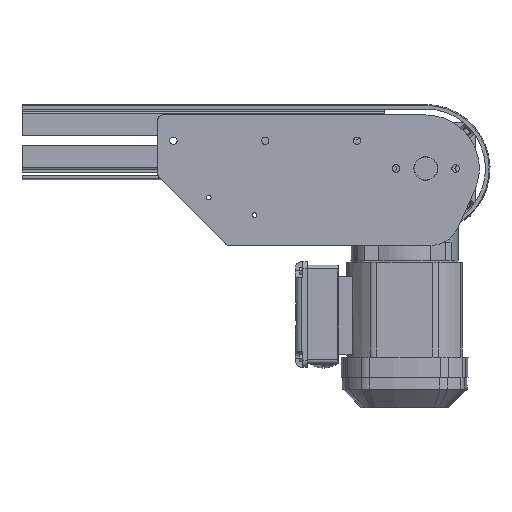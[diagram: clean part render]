
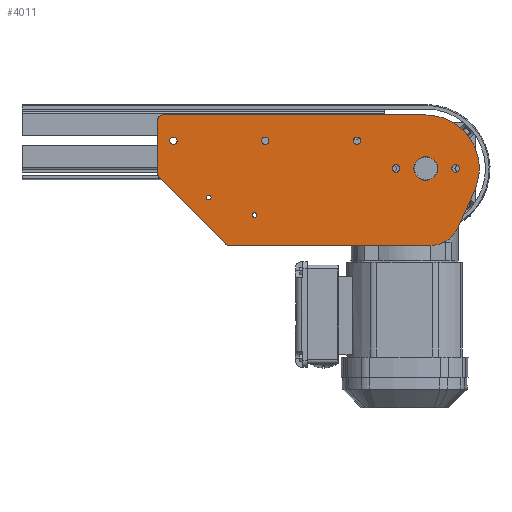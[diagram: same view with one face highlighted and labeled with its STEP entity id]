
A CAD part, left-side view. The second image highlights one B-rep face of the part: STEP entity #4011.
In plain terms, the highlighted planar face has unit normal (-1, 0, 0) as drawn and (0, 0, -1) by its records, which use the part's own axes.
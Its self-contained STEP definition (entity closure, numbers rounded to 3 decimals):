
#3442=CARTESIAN_POINT('',(105.169,123.965,0.0));
#3443=VERTEX_POINT('',#3442);
#3444=CARTESIAN_POINT('',(92.169,123.965,0.0));
#3445=DIRECTION('',(0.0,0.0,1.0));
#3446=DIRECTION('',(-1.0,0.0,0.0));
#3447=AXIS2_PLACEMENT_3D('',#3444,#3445,#3446);
#3448=CIRCLE('',#3447,13.0);
#3449=EDGE_CURVE('',#3443,#3443,#3448,.T.);
#3470=CARTESIAN_POINT('',(63.769,123.965,0.0));
#3471=VERTEX_POINT('',#3470);
#3472=CARTESIAN_POINT('',(59.669,123.965,0.0));
#3473=DIRECTION('',(0.0,0.0,1.0));
#3474=DIRECTION('',(-1.0,0.0,0.0));
#3475=AXIS2_PLACEMENT_3D('',#3472,#3473,#3474);
#3476=CIRCLE('',#3475,4.1);
#3477=EDGE_CURVE('',#3471,#3471,#3476,.T.);
#3498=CARTESIAN_POINT('',(128.769,123.965,0.0));
#3499=VERTEX_POINT('',#3498);
#3500=CARTESIAN_POINT('',(124.669,123.965,0.0));
#3501=DIRECTION('',(0.0,0.0,1.0));
#3502=DIRECTION('',(-1.0,0.0,0.0));
#3503=AXIS2_PLACEMENT_3D('',#3500,#3501,#3502);
#3504=CIRCLE('',#3503,4.1);
#3505=EDGE_CURVE('',#3499,#3499,#3504,.T.);
#3526=CARTESIAN_POINT('',(171.169,154.265,0.0));
#3527=VERTEX_POINT('',#3526);
#3528=CARTESIAN_POINT('',(167.169,154.265,0.0));
#3529=DIRECTION('',(0.0,0.0,1.0));
#3530=DIRECTION('',(-1.0,0.0,0.0));
#3531=AXIS2_PLACEMENT_3D('',#3528,#3529,#3530);
#3532=CIRCLE('',#3531,4.0);
#3533=EDGE_CURVE('',#3527,#3527,#3532,.T.);
#3554=CARTESIAN_POINT('',(271.169,154.265,0.0));
#3555=VERTEX_POINT('',#3554);
#3556=CARTESIAN_POINT('',(267.169,154.265,0.0));
#3557=DIRECTION('',(0.0,0.0,1.0));
#3558=DIRECTION('',(-1.0,0.0,0.0));
#3559=AXIS2_PLACEMENT_3D('',#3556,#3557,#3558);
#3560=CIRCLE('',#3559,4.0);
#3561=EDGE_CURVE('',#3555,#3555,#3560,.T.);
#3582=CARTESIAN_POINT('',(371.169,154.265,0.0));
#3583=VERTEX_POINT('',#3582);
#3584=CARTESIAN_POINT('',(367.169,154.265,0.0));
#3585=DIRECTION('',(0.0,0.0,1.0));
#3586=DIRECTION('',(-1.0,0.0,0.0));
#3587=AXIS2_PLACEMENT_3D('',#3584,#3585,#3586);
#3588=CIRCLE('',#3587,4.0);
#3589=EDGE_CURVE('',#3583,#3583,#3588,.T.);
#3610=CARTESIAN_POINT('',(281.169,73.265,0.0));
#3611=VERTEX_POINT('',#3610);
#3612=CARTESIAN_POINT('',(278.669,73.265,0.0));
#3613=DIRECTION('',(0.0,0.0,1.0));
#3614=DIRECTION('',(-1.0,0.0,0.0));
#3615=AXIS2_PLACEMENT_3D('',#3612,#3613,#3614);
#3616=CIRCLE('',#3615,2.5);
#3617=EDGE_CURVE('',#3611,#3611,#3616,.T.);
#3638=CARTESIAN_POINT('',(331.169,92.265,0.0));
#3639=VERTEX_POINT('',#3638);
#3640=CARTESIAN_POINT('',(328.669,92.265,0.0));
#3641=DIRECTION('',(0.0,0.0,1.0));
#3642=DIRECTION('',(-1.0,0.0,0.0));
#3643=AXIS2_PLACEMENT_3D('',#3640,#3641,#3642);
#3644=CIRCLE('',#3643,2.5);
#3645=EDGE_CURVE('',#3639,#3639,#3644,.T.);
#3665=CARTESIAN_POINT('',(86.723,40.265,0.0));
#3666=VERTEX_POINT('',#3665);
#3673=CARTESIAN_POINT('',(307.185,40.265,0.0));
#3674=VERTEX_POINT('',#3673);
#3675=CARTESIAN_POINT('',(86.723,40.265,0.0));
#3676=DIRECTION('',(1.0,0.0,0.0));
#3677=VECTOR('',#3676,220.461);
#3678=LINE('',#3675,#3677);
#3679=EDGE_CURVE('',#3666,#3674,#3678,.T.);
#3704=CARTESIAN_POINT('',(57.033,59.546,0.0));
#3705=VERTEX_POINT('',#3704);
#3712=CARTESIAN_POINT('',(86.723,72.765,0.0));
#3713=DIRECTION('',(0.0,0.0,1.0));
#3714=DIRECTION('',(-0.914,-0.407,0.0));
#3715=AXIS2_PLACEMENT_3D('',#3712,#3713,#3714);
#3716=CIRCLE('',#3715,32.5);
#3717=EDGE_CURVE('',#3705,#3666,#3716,.T.);
#3736=CARTESIAN_POINT('',(38.91,100.253,0.0));
#3737=VERTEX_POINT('',#3736);
#3744=CARTESIAN_POINT('',(38.91,100.253,0.0));
#3745=DIRECTION('',(0.407,-0.914,0.0));
#3746=VECTOR('',#3745,44.558);
#3747=LINE('',#3744,#3746);
#3748=EDGE_CURVE('',#3737,#3705,#3747,.T.);
#3768=CARTESIAN_POINT('',(92.169,182.265,0.0));
#3769=VERTEX_POINT('',#3768);
#3776=CARTESIAN_POINT('',(92.169,123.965,0.0));
#3777=DIRECTION('',(0.0,0.0,1.0));
#3778=DIRECTION('',(0.0,1.0,0.0));
#3779=AXIS2_PLACEMENT_3D('',#3776,#3777,#3778);
#3780=CIRCLE('',#3779,58.3);
#3781=EDGE_CURVE('',#3769,#3737,#3780,.T.);
#3800=CARTESIAN_POINT('',(379.169,182.265,0.0));
#3801=VERTEX_POINT('',#3800);
#3808=CARTESIAN_POINT('',(379.169,182.265,0.0));
#3809=DIRECTION('',(-1.0,0.0,0.0));
#3810=VECTOR('',#3809,287.);
#3811=LINE('',#3808,#3810);
#3812=EDGE_CURVE('',#3801,#3769,#3811,.T.);
#3832=CARTESIAN_POINT('',(384.169,177.265,0.0));
#3833=VERTEX_POINT('',#3832);
#3840=CARTESIAN_POINT('',(379.169,177.265,0.0));
#3841=DIRECTION('',(0.0,0.0,1.0));
#3842=DIRECTION('',(1.0,0.0,0.0));
#3843=AXIS2_PLACEMENT_3D('',#3840,#3841,#3842);
#3844=CIRCLE('',#3843,5.0);
#3845=EDGE_CURVE('',#3833,#3801,#3844,.T.);
#3864=CARTESIAN_POINT('',(384.169,117.475,0.0));
#3865=VERTEX_POINT('',#3864);
#3872=CARTESIAN_POINT('',(384.169,117.475,0.0));
#3873=DIRECTION('',(0.0,1.0,0.0));
#3874=VECTOR('',#3873,59.79);
#3875=LINE('',#3872,#3874);
#3876=EDGE_CURVE('',#3865,#3833,#3875,.T.);
#3896=CARTESIAN_POINT('',(382.71,113.945,0.0));
#3897=VERTEX_POINT('',#3896);
#3904=CARTESIAN_POINT('',(379.169,117.475,0.0));
#3905=DIRECTION('',(0.0,0.0,1.0));
#3906=DIRECTION('',(0.708,-0.706,0.0));
#3907=AXIS2_PLACEMENT_3D('',#3904,#3905,#3906);
#3908=CIRCLE('',#3907,5.);
#3909=EDGE_CURVE('',#3897,#3865,#3908,.T.);
#3928=CARTESIAN_POINT('',(310.726,41.735,0.0));
#3929=VERTEX_POINT('',#3928);
#3936=CARTESIAN_POINT('',(310.726,41.735,0.0));
#3937=DIRECTION('',(0.706,0.708,0.0));
#3938=VECTOR('',#3937,101.961);
#3939=LINE('',#3936,#3938);
#3940=EDGE_CURVE('',#3929,#3897,#3939,.T.);
#3959=CARTESIAN_POINT('',(307.185,45.265,0.0));
#3960=DIRECTION('',(0.0,0.0,1.0));
#3961=DIRECTION('',(0.0,-1.0,0.0));
#3962=AXIS2_PLACEMENT_3D('',#3959,#3960,#3961);
#3963=CIRCLE('',#3962,5.0);
#3964=EDGE_CURVE('',#3674,#3929,#3963,.T.);
#3970=CARTESIAN_POINT('',(210.603,116.287,0.0));
#3971=DIRECTION('',(0.0,0.0,1.0));
#3972=DIRECTION('',(1.0,0.0,0.0));
#3973=AXIS2_PLACEMENT_3D('',#3970,#3971,#3972);
#3974=PLANE('',#3973);
#3975=ORIENTED_EDGE('',*,*,#3679,.F.);
#3976=ORIENTED_EDGE('',*,*,#3717,.F.);
#3977=ORIENTED_EDGE('',*,*,#3748,.F.);
#3978=ORIENTED_EDGE('',*,*,#3781,.F.);
#3979=ORIENTED_EDGE('',*,*,#3812,.F.);
#3980=ORIENTED_EDGE('',*,*,#3845,.F.);
#3981=ORIENTED_EDGE('',*,*,#3876,.F.);
#3982=ORIENTED_EDGE('',*,*,#3909,.F.);
#3983=ORIENTED_EDGE('',*,*,#3940,.F.);
#3984=ORIENTED_EDGE('',*,*,#3964,.F.);
#3985=EDGE_LOOP('',(#3975,#3976,#3977,#3978,#3979,#3980,#3981,#3982,#3983,#3984));
#3986=FACE_OUTER_BOUND('',#3985,.T.);
#3987=ORIENTED_EDGE('',*,*,#3449,.T.);
#3988=EDGE_LOOP('',(#3987));
#3989=FACE_BOUND('',#3988,.T.);
#3990=ORIENTED_EDGE('',*,*,#3477,.T.);
#3991=EDGE_LOOP('',(#3990));
#3992=FACE_BOUND('',#3991,.T.);
#3993=ORIENTED_EDGE('',*,*,#3505,.T.);
#3994=EDGE_LOOP('',(#3993));
#3995=FACE_BOUND('',#3994,.T.);
#3996=ORIENTED_EDGE('',*,*,#3533,.T.);
#3997=EDGE_LOOP('',(#3996));
#3998=FACE_BOUND('',#3997,.T.);
#3999=ORIENTED_EDGE('',*,*,#3561,.T.);
#4000=EDGE_LOOP('',(#3999));
#4001=FACE_BOUND('',#4000,.T.);
#4002=ORIENTED_EDGE('',*,*,#3589,.T.);
#4003=EDGE_LOOP('',(#4002));
#4004=FACE_BOUND('',#4003,.T.);
#4005=ORIENTED_EDGE('',*,*,#3617,.T.);
#4006=EDGE_LOOP('',(#4005));
#4007=FACE_BOUND('',#4006,.T.);
#4008=ORIENTED_EDGE('',*,*,#3645,.T.);
#4009=EDGE_LOOP('',(#4008));
#4010=FACE_BOUND('',#4009,.T.);
#4011=ADVANCED_FACE('',(#3986,#3989,#3992,#3995,#3998,#4001,#4004,#4007,#4010),#3974,.F.);
